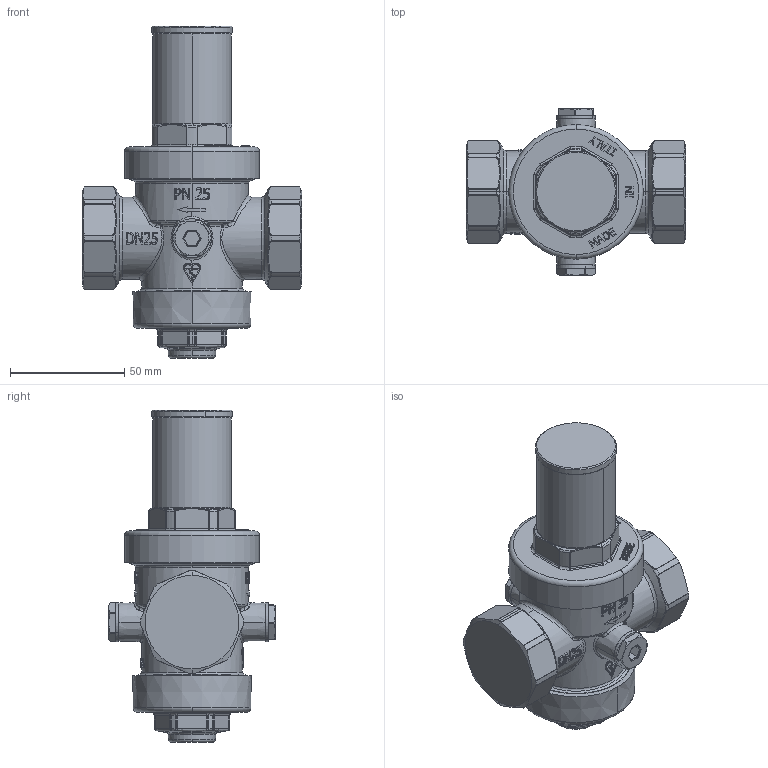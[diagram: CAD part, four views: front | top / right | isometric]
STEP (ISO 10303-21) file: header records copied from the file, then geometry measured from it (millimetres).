
FILE_DESCRIPTION (( 'STEP AP214' ), '1' );
FILE_NAME ('BPR403_standardowy_reduktor_cisnienia_9040310_0_3D_AFRISO.STEP', '2025-06-04T10:11:07', ( '' ), ( '' ), 'SwSTEP 2.0', 'SolidWorks 2024', '' );
FILE_SCHEMA (( 'AUTOMOTIVE_DESIGN' ));
Length unit declared in the file: millimetre
Products named in the file (7): 3101.525.00; 7001.235.12; 3001.525.02; 4401.008.00; 6301.007.11; 3301.525.00; BPR403_standardowy_reduktor_cisnienia_9040310_0_3D_AFRISO
Assembly tree (8 placements, depth 2):
  BPR403_standardowy_reduktor_cisnienia_9040310_0_3D_AFRISO
    3001.525.02
    3101.525.00
    3301.525.00
    6301.007.11  x2
    7001.235.12
    4401.008.00  x2
Bounding box: 96 x 73 x 145.5 mm (x, y, z)
Volume: 342342.7 mm3; surface area: 51806.8 mm2
Topology: 8 solids, 8 shells, 1139 faces, 2948 edges, 1852 vertices
Faces by surface type: plane 407, bspline 298, cylinder 268, torus 98, cone 64, sphere 4
Entity records: 78798 total; most frequent: CARTESIAN_POINT 44128, ORIENTED_EDGE 5518, DIRECTION 4197, EDGE_CURVE 2759, VERTEX_POINT 1748, AXIS2_PLACEMENT_3D 1496, LINE 1205, VECTOR 1205
